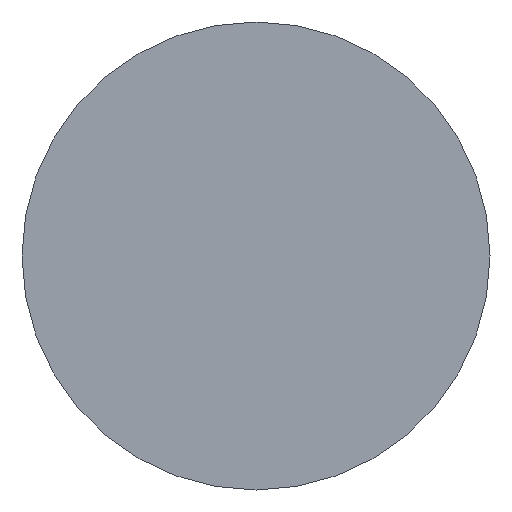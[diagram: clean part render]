
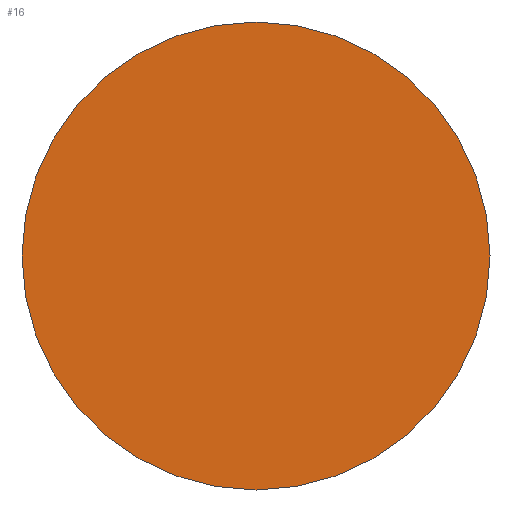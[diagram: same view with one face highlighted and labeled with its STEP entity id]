
A CAD part, left-side view. The second image highlights one B-rep face of the part: STEP entity #16.
In plain terms, the highlighted planar face has unit normal (-1, 0, 0).
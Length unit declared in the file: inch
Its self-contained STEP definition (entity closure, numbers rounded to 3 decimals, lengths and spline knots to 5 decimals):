
#16 = ADVANCED_FACE ( 'NONE', ( #282 ), #511, .T. ) ;
#24 = DIRECTION ( 'NONE',  ( 0., 0., -1. ) ) ;
#32 = DIRECTION ( 'NONE',  ( 1., 0., 0. ) ) ;
#49 = CARTESIAN_POINT ( 'NONE',  ( -0.5, 0., 0. ) ) ;
#70 = EDGE_CURVE ( 'NONE', #283, #319, #273, .T. ) ;
#84 = EDGE_CURVE ( 'NONE', #319, #283, #477, .T. ) ;
#137 = AXIS2_PLACEMENT_3D ( 'NONE', #49, #32, #24 ) ;
#151 = AXIS2_PLACEMENT_3D ( 'NONE', #226, #222, #227 ) ;
#159 = AXIS2_PLACEMENT_3D ( 'NONE', #508, #507, #506 ) ;
#222 = DIRECTION ( 'NONE',  ( 1., 0., 0. ) ) ;
#226 = CARTESIAN_POINT ( 'NONE',  ( -0.5, 0., 0. ) ) ;
#227 = DIRECTION ( 'NONE',  ( 0., 0., -1. ) ) ;
#273 = CIRCLE ( 'NONE', #137, 0.4375 ) ;
#282 = FACE_OUTER_BOUND ( 'NONE', #325, .T. ) ;
#283 = VERTEX_POINT ( 'NONE', #428 ) ;
#319 = VERTEX_POINT ( 'NONE', #426 ) ;
#325 = EDGE_LOOP ( 'NONE', ( #368, #366 ) ) ;
#366 = ORIENTED_EDGE ( 'NONE', *, *, #84, .F. ) ;
#368 = ORIENTED_EDGE ( 'NONE', *, *, #70, .F. ) ;
#426 = CARTESIAN_POINT ( 'NONE',  ( -0.5, 0., 0.4375 ) ) ;
#428 = CARTESIAN_POINT ( 'NONE',  ( -0.5, 0., -0.4375 ) ) ;
#477 = CIRCLE ( 'NONE', #151, 0.4375 ) ;
#506 = DIRECTION ( 'NONE',  ( 0., 0., 1. ) ) ;
#507 = DIRECTION ( 'NONE',  ( -1., 0., 0. ) ) ;
#508 = CARTESIAN_POINT ( 'NONE',  ( -0.5, 0.4375, 0. ) ) ;
#511 = PLANE ( 'NONE',  #159 ) ;
